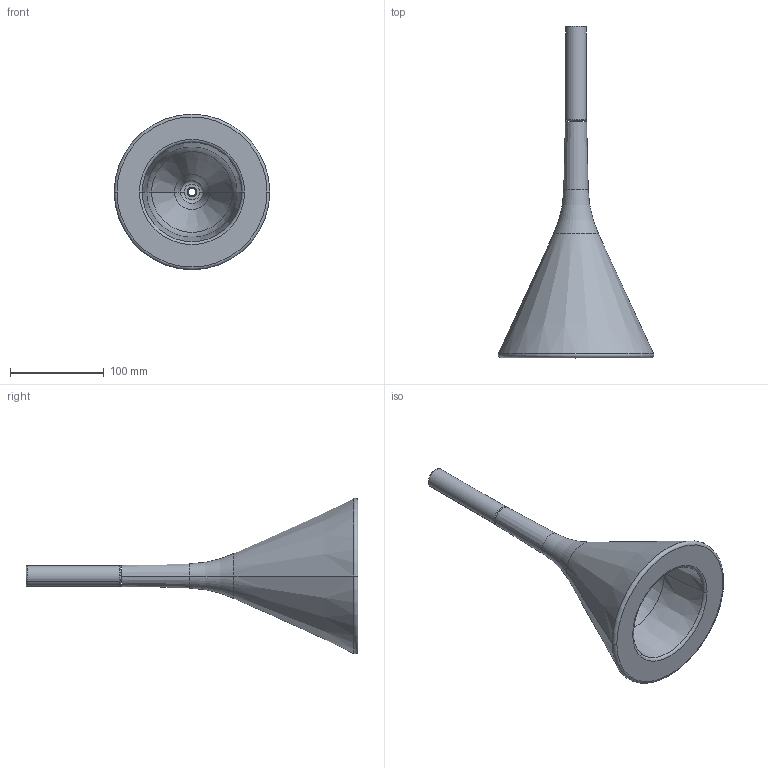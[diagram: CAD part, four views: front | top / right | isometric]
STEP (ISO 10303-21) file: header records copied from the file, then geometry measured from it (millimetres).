
FILE_DESCRIPTION (( 'STEP AP214' ), '1' );
FILE_NAME ('291_STD_OS_LD_3D.STEP', '2021-04-28T14:29:24', ( '' ), ( '' ), 'SwSTEP 2.0', 'SolidWorks 2021', '' );
FILE_SCHEMA (( 'AUTOMOTIVE_DESIGN' ));
Length unit declared in the file: millimetre
Products named in the file (1): 291_STD_OS_LD_3D
Bounding box: 165.99 x 354 x 165.99 mm (x, y, z)
Volume: 679183.1 mm3; surface area: 123197.1 mm2
Topology: 2 solids, 2 shells, 46 faces, 92 edges, 52 vertices
Faces by surface type: torus 18, cone 12, cylinder 10, plane 6
Entity records: 1759 total; most frequent: DIRECTION 256, CARTESIAN_POINT 191, ORIENTED_EDGE 184, AXIS2_PLACEMENT_3D 117, EDGE_CURVE 92, CIRCLE 70, EDGE_LOOP 52, VERTEX_POINT 52
